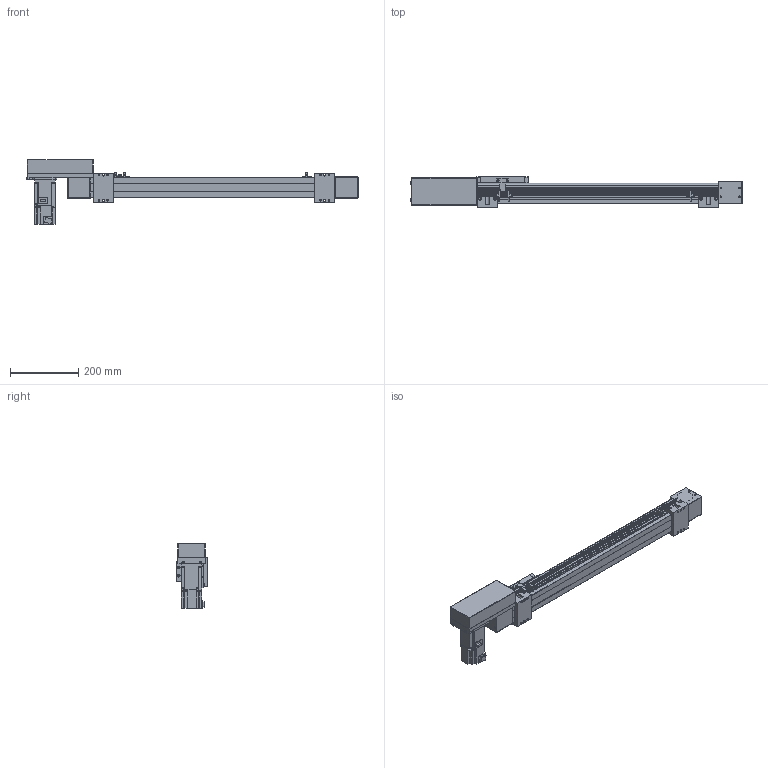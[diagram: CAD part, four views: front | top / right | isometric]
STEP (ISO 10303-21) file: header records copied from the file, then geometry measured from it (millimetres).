
FILE_DESCRIPTION(/* description */ ('STEP AP214'),/* implementation_level */ '2;1');
FILE_NAME(/* name */ 'SK60-P13-S550-R-T40-C1-N(0)',/* time_stamp */ '2023-04-06T04:26:00+02:00',/* author */ ('License CC BY-ND 4.0'),/* organization */ ('CADENAS'),/* preprocessor_version */ 'ST-DEVELOPER v19.3',/* originating_system */ 'PARTsolutions',/* authorisation */ ' ');
FILE_SCHEMA (('AUTOMOTIVE_DESIGN {1 0 10303 214 3 1 1}'));
Length unit declared in the file: millimetre
Products named in the file (10): SK60-P13-S550-R-T40-C1-N(0); PSC140-sensor; SK60-S450_seat; SK60-S450-BL-C1_slider; SK60_body3; SK60_body6; SK60-BL_body2; T40-p1; SK60-R_fb; SK60-S550-R-C1_body
Assembly tree (16 placements, depth 2):
  SK60-P13-S550-R-T40-C1-N(0)
    PSC140-sensor  x3
    SK60-S450_seat  x2
    SK60-S450-BL-C1_slider
    SK60_body3  x3
    SK60_body6  x2
    SK60-BL_body2  x2
    T40-p1
    SK60-R_fb
    SK60-S550-R-C1_body
Bounding box: 970.5 x 90 x 189.7 mm (x, y, z)
Volume: 4131013.3 mm3; surface area: 547986 mm2
Topology: 16 solids, 16 shells, 810 faces, 2048 edges, 1349 vertices
Faces by surface type: plane 524, cylinder 262, cone 22, torus 2
Full cylindrical faces by diameter (mm): 2.8 x3, 3.3 x4, 4 x2, 4.5 x30, 4.6 x3, 4.917 x16, 5 x6, 5.478 x4, 5.5 x19, 6.5 x4, 7 x2, 8 x4, 8.5 x4, 9.988 x4, 10 x8, 14 x1, 47 x3, 50 x2
Entity records: 18655 total; most frequent: DIRECTION 3184, CARTESIAN_POINT 3150, ORIENTED_EDGE 2940, EDGE_CURVE 1470, AXIS2_PLACEMENT_3D 1068, LINE 1048, VECTOR 1048, VERTEX_POINT 1034
